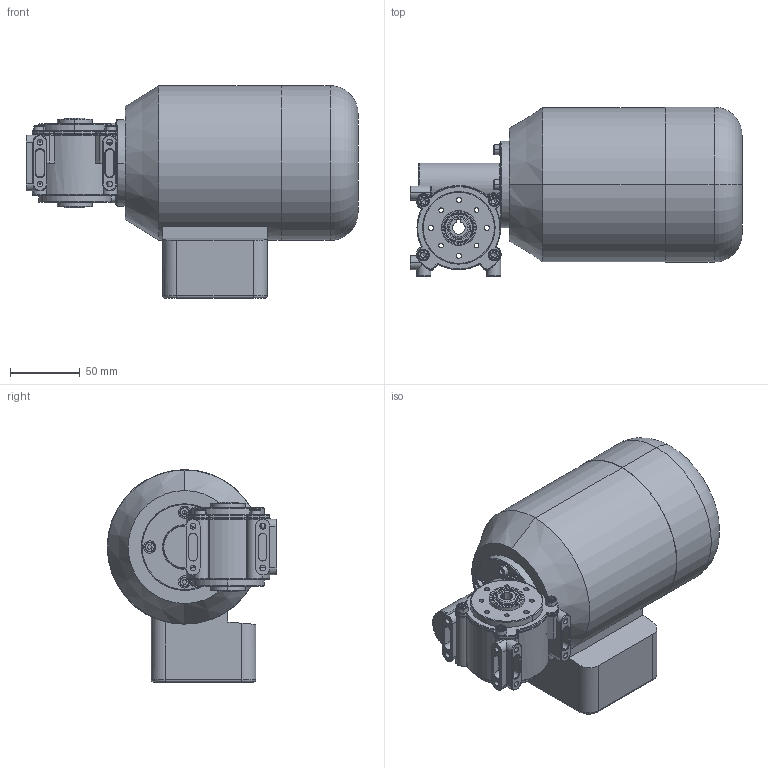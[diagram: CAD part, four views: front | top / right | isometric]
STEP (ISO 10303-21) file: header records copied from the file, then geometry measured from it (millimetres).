
FILE_DESCRIPTION (( 'STEP AP214' ), '1' );
FILE_NAME ('SN18H_90W_1400Upm_C.STEP', '2021-03-17T08:08:20', ( '' ), ( '' ), 'SwSTEP 2.0', 'SolidWorks 2019', '' );
FILE_SCHEMA (( 'AUTOMOTIVE_DESIGN' ));
Length unit declared in the file: millimetre
Products named in the file (1): SN18H_90W_1400Upm_C
Bounding box: 238 x 121.5 x 152.5 mm (x, y, z)
Surface area: 119254.6 mm2 (no closed solid volume)
Topology: 0 solids, 17 shells, 535 faces, 1484 edges, 962 vertices
Faces by surface type: cylinder 280, torus 123, plane 94, cone 30, sphere 4, bspline 4
Entity records: 25603 total; most frequent: CARTESIAN_POINT 5856, DIRECTION 3142, ORIENTED_EDGE 2694, EDGE_CURVE 1470, AXIS2_PLACEMENT_3D 1332, VERTEX_POINT 960, CIRCLE 800, EDGE_LOOP 613
